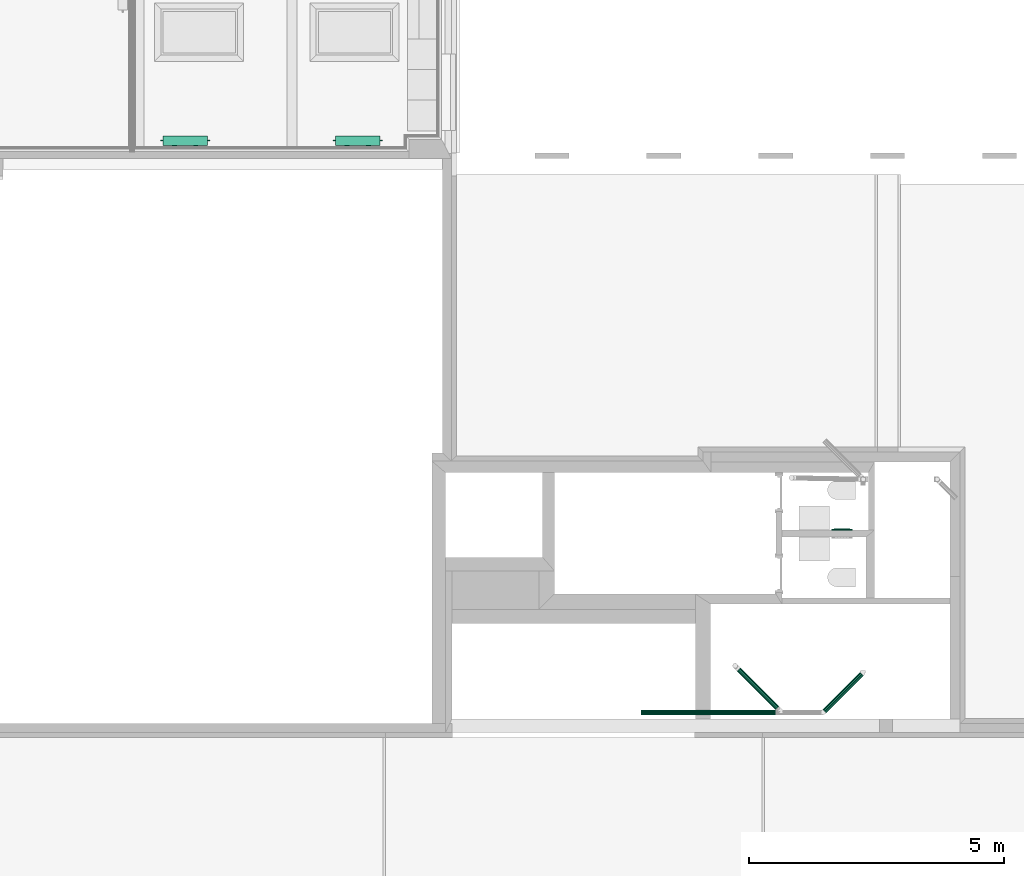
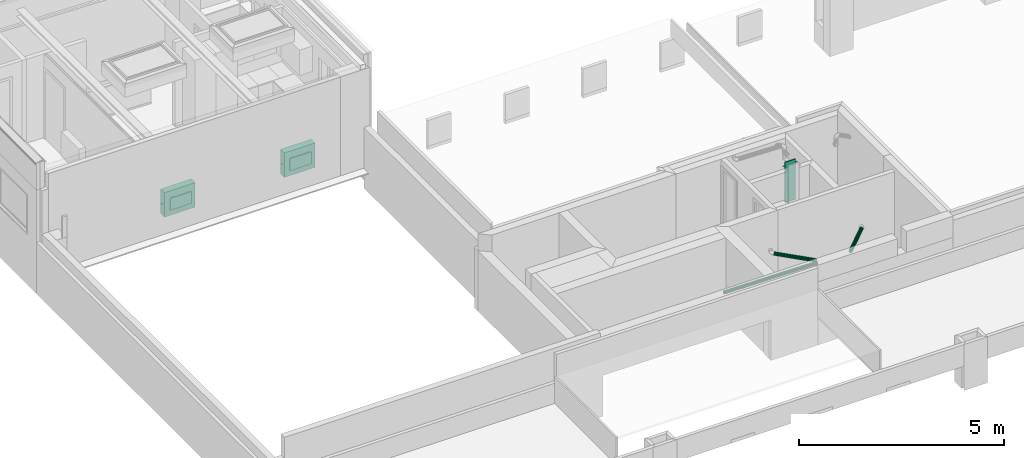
# One storey, part 13 of 23: 3 flow segments, 3 flow terminals.
"""IFC2X3 building model written with IfcOpenShell, lengths in metres."""

from ifc_helpers import new_model, entity, si_unit, converted_unit, derived_unit, money_unit, direction, frame, origin_with_axes, place, context, subcontext, project, spatial, open_shell, faceted_brep, surface_model, material, type_object, element, save


model = new_model("IFC2X3")

# Units and contexts
model_context = context("Model", 3, precision=1e-05, world=origin_with_axes(), true_north=direction((0.0, 1.0)))
body_context = subcontext(model_context, "Body", "Model", "MODEL_VIEW", scale=1.0)
ifc_project = project(units=[si_unit("LENGTHUNIT", "METRE"), si_unit("AREAUNIT", "SQUARE_METRE"), si_unit("VOLUMEUNIT", "CUBIC_METRE"), si_unit("ABSORBEDDOSEUNIT", "GRAY"), si_unit("AMOUNTOFSUBSTANCEUNIT", "MOLE"), si_unit("DOSEEQUIVALENTUNIT", "SIEVERT"), si_unit("ELECTRICCAPACITANCEUNIT", "FARAD"), si_unit("ELECTRICCHARGEUNIT", "COULOMB"), si_unit("ELECTRICCONDUCTANCEUNIT", "SIEMENS"), si_unit("ELECTRICCURRENTUNIT", "AMPERE"), si_unit("ELECTRICRESISTANCEUNIT", "OHM"), si_unit("ELECTRICVOLTAGEUNIT", "VOLT"), si_unit("ENERGYUNIT", "JOULE"), si_unit("FORCEUNIT", "NEWTON"), si_unit("FREQUENCYUNIT", "HERTZ"), si_unit("ILLUMINANCEUNIT", "LUX"), si_unit("INDUCTANCEUNIT", "HENRY"), si_unit("LUMINOUSFLUXUNIT", "LUMEN"), si_unit("LUMINOUSINTENSITYUNIT", "CANDELA"), si_unit("MAGNETICFLUXDENSITYUNIT", "TESLA"), si_unit("MAGNETICFLUXUNIT", "WEBER"), si_unit("MASSUNIT", "GRAM"), converted_unit("PLANEANGLEUNIT", "degree", entity("IfcReal", 0.0174532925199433), si_unit("PLANEANGLEUNIT", "RADIAN"), dimensions=[0, 0, 0, 0, 0, 0, 0]), si_unit("POWERUNIT", "WATT"), si_unit("PRESSUREUNIT", "PASCAL"), si_unit("RADIOACTIVITYUNIT", "BECQUEREL"), si_unit("SOLIDANGLEUNIT", "STERADIAN"), si_unit("THERMODYNAMICTEMPERATUREUNIT", "KELVIN"), si_unit("TIMEUNIT", "SECOND"), derived_unit("ACCELERATIONUNIT", [(si_unit("LENGTHUNIT", "METRE"), 1), (si_unit("TIMEUNIT", "SECOND"), -2)]), derived_unit("ANGULARVELOCITYUNIT", [(converted_unit("PLANEANGLEUNIT", "degree", entity("IfcReal", 0.0174532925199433), si_unit("PLANEANGLEUNIT", "RADIAN"), dimensions=[0, 0, 0, 0, 0, 0, 0]), 1), (si_unit("TIMEUNIT", "SECOND"), -1)]), derived_unit("CURVATUREUNIT", [(converted_unit("PLANEANGLEUNIT", "degree", entity("IfcReal", 0.0174532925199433), si_unit("PLANEANGLEUNIT", "RADIAN"), dimensions=[0, 0, 0, 0, 0, 0, 0]), 1), (si_unit("LENGTHUNIT", "METRE"), -1)]), derived_unit("DYNAMICVISCOSITYUNIT", [(si_unit("PRESSUREUNIT", "PASCAL"), 1), (si_unit("TIMEUNIT", "SECOND"), 1)]), derived_unit("HEATFLUXDENSITYUNIT", [(si_unit("POWERUNIT", "WATT"), 1), (si_unit("LENGTHUNIT", "METRE"), -2)]), derived_unit("HEATINGVALUEUNIT", [(si_unit("ENERGYUNIT", "JOULE"), 1), (si_unit("MASSUNIT", "GRAM"), -1)]), derived_unit("INTEGERCOUNTRATEUNIT", [(si_unit("TIMEUNIT", "SECOND"), -1)]), derived_unit("IONCONCENTRATIONUNIT", [(si_unit("MASSUNIT", "GRAM"), 1), (si_unit("VOLUMEUNIT", "CUBIC_METRE"), -1)]), derived_unit("ISOTHERMALMOISTURECAPACITYUNIT", [(si_unit("VOLUMEUNIT", "CUBIC_METRE"), 1), (si_unit("MASSUNIT", "GRAM"), -1)]), derived_unit("KINEMATICVISCOSITYUNIT", [(si_unit("AREAUNIT", "SQUARE_METRE"), 1), (si_unit("TIMEUNIT", "SECOND"), -1)]), derived_unit("LINEARFORCEUNIT", [(si_unit("FORCEUNIT", "NEWTON"), 1), (si_unit("LENGTHUNIT", "METRE"), -1)]), derived_unit("LINEARMOMENTUNIT", [(si_unit("FORCEUNIT", "NEWTON"), 1), (si_unit("LENGTHUNIT", "METRE"), -1)]), derived_unit("LINEARSTIFFNESSUNIT", [(si_unit("FORCEUNIT", "NEWTON"), 1), (si_unit("LENGTHUNIT", "METRE"), -1)]), derived_unit("LINEARVELOCITYUNIT", [(si_unit("LENGTHUNIT", "METRE"), 1), (si_unit("TIMEUNIT", "SECOND"), -1)]), derived_unit("LUMINOUSINTENSITYDISTRIBUTIONUNIT", [(si_unit("LUMINOUSINTENSITYUNIT", "CANDELA"), 1), (si_unit("LUMINOUSFLUXUNIT", "LUMEN"), -1)]), derived_unit("MASSDENSITYUNIT", [(si_unit("MASSUNIT", "GRAM"), 1), (si_unit("VOLUMEUNIT", "CUBIC_METRE"), -1)]), derived_unit("MASSFLOWRATEUNIT", [(si_unit("MASSUNIT", "GRAM"), 1), (si_unit("TIMEUNIT", "SECOND"), -1)]), derived_unit("MASSPERLENGTHUNIT", [(si_unit("MASSUNIT", "GRAM"), 1), (si_unit("LENGTHUNIT", "METRE"), -1)]), derived_unit("MODULUSOFELASTICITYUNIT", [(si_unit("FORCEUNIT", "NEWTON"), 1), (si_unit("AREAUNIT", "SQUARE_METRE"), -1)]), derived_unit("MODULUSOFLINEARSUBGRADEREACTIONUNIT", [(si_unit("FORCEUNIT", "NEWTON"), 1), (si_unit("LENGTHUNIT", "METRE"), -2)]), derived_unit("MODULUSOFROTATIONALSUBGRADEREACTIONUNIT", [(si_unit("FORCEUNIT", "NEWTON"), 1), (si_unit("LENGTHUNIT", "METRE"), 1)]), derived_unit("MODULUSOFSUBGRADEREACTIONUNIT", [(si_unit("FORCEUNIT", "NEWTON"), 1), (si_unit("VOLUMEUNIT", "CUBIC_METRE"), -1)]), derived_unit("MOISTUREDIFFUSIVITYUNIT", [(si_unit("VOLUMEUNIT", "CUBIC_METRE"), 1), (si_unit("TIMEUNIT", "SECOND"), -1)]), derived_unit("MOLECULARWEIGHTUNIT", [(si_unit("MASSUNIT", "GRAM"), 1), (si_unit("AMOUNTOFSUBSTANCEUNIT", "MOLE"), -1)]), derived_unit("PLANARFORCEUNIT", [(si_unit("FORCEUNIT", "NEWTON"), 1), (si_unit("LENGTHUNIT", "METRE"), -2)]), derived_unit("ROTATIONALFREQUENCYUNIT", [(si_unit("TIMEUNIT", "SECOND"), -1)]), derived_unit("ROTATIONALMASSUNIT", [(si_unit("MASSUNIT", "GRAM"), 1), (si_unit("LENGTHUNIT", "METRE"), 2)]), derived_unit("ROTATIONALSTIFFNESSUNIT", [(si_unit("FORCEUNIT", "NEWTON"), 1), (si_unit("LENGTHUNIT", "METRE"), 1), (converted_unit("PLANEANGLEUNIT", "degree", entity("IfcReal", 0.0174532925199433), si_unit("PLANEANGLEUNIT", "RADIAN"), dimensions=[0, 0, 0, 0, 0, 0, 0]), -1)]), derived_unit("SECTIONAREAINTEGRALUNIT", [(si_unit("LENGTHUNIT", "METRE"), 5)]), derived_unit("SECTIONMODULUSUNIT", [(si_unit("LENGTHUNIT", "METRE"), 3)]), derived_unit("SHEARMODULUSUNIT", [(si_unit("FORCEUNIT", "NEWTON"), 1), (si_unit("AREAUNIT", "SQUARE_METRE"), -1)]), derived_unit("SOUNDPOWERUNIT", [(si_unit("ENERGYUNIT", "JOULE"), 1), (si_unit("TIMEUNIT", "SECOND"), -1)]), derived_unit("SPECIFICHEATCAPACITYUNIT", [(si_unit("FORCEUNIT", "NEWTON"), 1), (si_unit("MASSUNIT", "GRAM"), -1), (si_unit("THERMODYNAMICTEMPERATUREUNIT", "KELVIN"), -1)]), derived_unit("TEMPERATUREGRADIENTUNIT", [(si_unit("THERMODYNAMICTEMPERATUREUNIT", "KELVIN"), 1), (si_unit("LENGTHUNIT", "METRE"), -1)]), derived_unit("THERMALADMITTANCEUNIT", [(si_unit("POWERUNIT", "WATT"), 1), (si_unit("AREAUNIT", "SQUARE_METRE"), -1), (si_unit("THERMODYNAMICTEMPERATUREUNIT", "KELVIN"), -1)]), derived_unit("THERMALCONDUCTANCEUNIT", [(si_unit("POWERUNIT", "WATT"), 1), (si_unit("LENGTHUNIT", "METRE"), -1), (si_unit("THERMODYNAMICTEMPERATUREUNIT", "KELVIN"), -1)]), derived_unit("THERMALEXPANSIONCOEFFICIENTUNIT", [(si_unit("THERMODYNAMICTEMPERATUREUNIT", "KELVIN"), -1)]), derived_unit("THERMALRESISTANCEUNIT", [(si_unit("AREAUNIT", "SQUARE_METRE"), 1), (si_unit("POWERUNIT", "WATT"), -1)]), derived_unit("THERMALTRANSMITTANCEUNIT", [(si_unit("POWERUNIT", "WATT"), 1), (si_unit("AREAUNIT", "SQUARE_METRE"), -1), (si_unit("THERMODYNAMICTEMPERATUREUNIT", "KELVIN"), -1)]), derived_unit("TORQUEUNIT", [(si_unit("FORCEUNIT", "NEWTON"), 1), (si_unit("LENGTHUNIT", "METRE"), 1)]), derived_unit("VAPORPERMEABILITYUNIT", [(si_unit("MASSUNIT", "GRAM"), 1), (si_unit("TIMEUNIT", "SECOND"), -1)]), derived_unit("VOLUMETRICFLOWRATEUNIT", [(si_unit("VOLUMEUNIT", "CUBIC_METRE"), 1), (si_unit("TIMEUNIT", "SECOND"), -1)]), derived_unit("WARPINGCONSTANTUNIT", [(si_unit("LENGTHUNIT", "METRE"), 6)]), derived_unit("WARPINGMOMENTUNIT", [(si_unit("FORCEUNIT", "NEWTON"), 1), (si_unit("LENGTHUNIT", "METRE"), 2)]), money_unit("GBP")], contexts=[model_context])

# Site, building, storey, space
site_placement = place(None, origin_with_axes())
site = spatial("IfcSite", under=ifc_project, at=site_placement, Name="Site", CompositionType="ELEMENT")
building_placement = place(site_placement, origin_with_axes())
building = spatial("IfcBuilding", under=site, at=building_placement, Name="Building01", CompositionType="ELEMENT")
storey_placement = place(building_placement, frame((0.0, 0.0, 2.6), z_axis=(0.0, 0.0, 1.0), x_axis=(1.0, 0.0, 0.0)))
storey = spatial("IfcBuildingStorey", under=building, at=storey_placement, Name="MF", CompositionType="ELEMENT", Elevation=2.6)
space_1_placement = place(storey_placement, frame((14.421434, 6.076984, 0.0), z_axis=(0.0, 0.0, 1.0), x_axis=(0.0, -1.0, 0.0)))
space_1 = spatial("IfcSpace", under=storey, at=space_1_placement, Name="storage", CompositionType="ELEMENT", InteriorOrExteriorSpace="NOTDEFINED")

# Flow segments
ifc_material_1 = material(Name="M_BSUK_ColdWater")
pipe_segment_type = type_object("IfcPipeSegmentType", Name="M-BmpStraightpipe-DefaultPipe", PredefinedType="RIGIDSEGMENT")
placement = place(building_placement, origin_with_axes())
flow_segment_1_placement = place(placement, frame((13.058928, 3.948962, 4.699324), z_axis=(0.01249902, 0.0, 0.99992188), x_axis=(0.99992188, 0.0, -0.01249902)))
element("IfcFlowSegment", 1, at=flow_segment_1_placement, inside=space_1, type_object=pipe_segment_type, material=ifc_material_1, Name="M-BmpStraightpipe-DefaultPipe", ObjectType="M-BmpStraightpipe-DefaultPipe", context=body_context, shape_type="Brep", body=[
    faceted_brep([(2.632821, 0.0, -0.05), (0.0, 0.0, -0.05), (0.0, 0.019134, -0.046194), (2.632821, 0.019134, -0.046194), (0.0, 0.035355, -0.035355), (2.632821, 0.035355, -0.035355), (0.0, 0.046194, -0.019134), (2.632821, 0.046194, -0.019134), (0.0, 0.05, 0.0), (2.632821, 0.05, 0.0), (0.0, 0.046194, 0.019134), (2.632821, 0.046194, 0.019134), (0.0, 0.035355, 0.035355), (2.632821, 0.035355, 0.035355), (0.0, 0.019134, 0.046194), (2.632821, 0.019134, 0.046194), (0.0, 0.0, 0.05), (2.632821, 0.0, 0.05), (0.0, -0.019134, 0.046194), (2.632821, -0.019134, 0.046194), (0.0, -0.035355, 0.035355), (2.632821, -0.035355, 0.035355), (0.0, -0.046194, 0.019134), (2.632821, -0.046194, 0.019134), (0.0, -0.05, 0.0), (2.632821, -0.05, 0.0), (0.0, -0.046194, -0.019134), (2.632821, -0.046194, -0.019134), (0.0, -0.035355, -0.035355), (2.632821, -0.035355, -0.035355), (0.0, -0.019134, -0.046194), (2.632821, -0.019134, -0.046194)], [[[0, 1, 2, 3]], [[3, 2, 4, 5]], [[5, 4, 6, 7]], [[7, 6, 8, 9]], [[9, 8, 10, 11]], [[11, 10, 12, 13]], [[13, 12, 14, 15]], [[15, 14, 16, 17]], [[17, 16, 18, 19]], [[19, 18, 20, 21]], [[21, 20, 22, 23]], [[23, 22, 24, 25]], [[25, 24, 26, 27]], [[27, 26, 28, 29]], [[29, 28, 30, 31]], [[31, 30, 1, 0]]]),
])
flow_segment_2_placement = place(placement, frame((16.650088, 3.978246, 4.654283), z_axis=(0.00883814, 0.00883814, 0.99992188), x_axis=(0.70705155, 0.70705154, -0.01249902)))
element("IfcFlowSegment", 2, at=flow_segment_2_placement, inside=space_1, type_object=pipe_segment_type, material=ifc_material_1, Name="M-BmpStraightpipe-DefaultPipe", ObjectType="M-BmpStraightpipe-DefaultPipe", context=body_context, shape_type="Brep", body=[
    faceted_brep([(1.02766, 0.0, -0.05), (0.0, 0.0, -0.05), (0.0, 0.019134, -0.046194), (1.02766, 0.019134, -0.046194), (0.0, 0.035355, -0.035355), (1.02766, 0.035355, -0.035355), (0.0, 0.046194, -0.019134), (1.02766, 0.046194, -0.019134), (0.0, 0.05, 0.0), (1.02766, 0.05, 0.0), (0.0, 0.046194, 0.019134), (1.02766, 0.046194, 0.019134), (0.0, 0.035355, 0.035355), (1.02766, 0.035355, 0.035355), (0.0, 0.019134, 0.046194), (1.02766, 0.019134, 0.046194), (0.0, 0.0, 0.05), (1.02766, 0.0, 0.05), (0.0, -0.019134, 0.046194), (1.02766, -0.019134, 0.046194), (0.0, -0.035355, 0.035355), (1.02766, -0.035355, 0.035355), (0.0, -0.046194, 0.019134), (1.02766, -0.046194, 0.019134), (0.0, -0.05, 0.0), (1.02766, -0.05, 0.0), (0.0, -0.046194, -0.019134), (1.02766, -0.046194, -0.019134), (0.0, -0.035355, -0.035355), (1.02766, -0.035355, -0.035355), (0.0, -0.019134, -0.046194), (1.02766, -0.019134, -0.046194)], [[[0, 1, 2, 3]], [[3, 2, 4, 5]], [[5, 4, 6, 7]], [[7, 6, 8, 9]], [[9, 8, 10, 11]], [[11, 10, 12, 13]], [[13, 12, 14, 15]], [[15, 14, 16, 17]], [[17, 16, 18, 19]], [[19, 18, 20, 21]], [[21, 20, 22, 23]], [[23, 22, 24, 25]], [[25, 24, 26, 27]], [[27, 26, 28, 29]], [[29, 28, 30, 31]], [[31, 30, 1, 0]]]),
])
flow_segment_3_placement = place(placement, frame((14.969827, 4.796648, 4.678882), z_axis=(0.00883814, -0.00883814, 0.99992188), x_axis=(0.70705155, -0.70705154, -0.01249902)))
element("IfcFlowSegment", 3, at=flow_segment_3_placement, inside=space_1, type_object=pipe_segment_type, material=ifc_material_1, Name="M-BmpStraightpipe-DefaultPipe", ObjectType="M-BmpStraightpipe-DefaultPipe", context=body_context, shape_type="Brep", body=[
    faceted_brep([(1.072986, 0.0, -0.05), (0.0, 0.0, -0.05), (0.0, 0.019134, -0.046194), (1.072986, 0.019134, -0.046194), (0.0, 0.035355, -0.035355), (1.072986, 0.035355, -0.035355), (0.0, 0.046194, -0.019134), (1.072986, 0.046194, -0.019134), (0.0, 0.05, 0.0), (1.072986, 0.05, 0.0), (0.0, 0.046194, 0.019134), (1.072986, 0.046194, 0.019134), (0.0, 0.035355, 0.035355), (1.072986, 0.035355, 0.035355), (0.0, 0.019134, 0.046194), (1.072986, 0.019134, 0.046194), (0.0, 0.0, 0.05), (1.072986, 0.0, 0.05), (0.0, -0.019134, 0.046194), (1.072986, -0.019134, 0.046194), (0.0, -0.035355, 0.035355), (1.072986, -0.035355, 0.035355), (0.0, -0.046194, 0.019134), (1.072986, -0.046194, 0.019134), (0.0, -0.05, 0.0), (1.072986, -0.05, 0.0), (0.0, -0.046194, -0.019134), (1.072986, -0.046194, -0.019134), (0.0, -0.035355, -0.035355), (1.072986, -0.035355, -0.035355), (0.0, -0.019134, -0.046194), (1.072986, -0.019134, -0.046194)], [[[0, 1, 2, 3]], [[3, 2, 4, 5]], [[5, 4, 6, 7]], [[7, 6, 8, 9]], [[9, 8, 10, 11]], [[11, 10, 12, 13]], [[13, 12, 14, 15]], [[15, 14, 16, 17]], [[17, 16, 18, 19]], [[19, 18, 20, 21]], [[21, 20, 22, 23]], [[23, 22, 24, 25]], [[25, 24, 26, 27]], [[27, 26, 28, 29]], [[29, 28, 30, 31]], [[31, 30, 1, 0]]]),
])

# Space
space_2_placement = place(storey_placement, frame((3.137414, 15.705689, 0.606989), z_axis=(0.0, 0.0, 1.0), x_axis=(0.0, -1.0, 0.0)))
space_2 = spatial("IfcSpace", under=storey, at=space_2_placement, Name="k/d/l", CompositionType="ELEMENT", InteriorOrExteriorSpace="NOTDEFINED")

# Flow terminals
ifc_material_2 = material(Name="M_BSUK_Ventilation")
space_heater_type_1 = type_object("IfcSpaceHeaterType", Name="M-BmvRadiatorpanel-Panel", PredefinedType="NOTDEFINED")
flow_terminal_1_placement = place(storey_placement, frame((3.702414, 15.14725, 1.25), z_axis=(0.0, 0.0, 1.0), x_axis=(-1.0, 0.0, 0.0)))
element("IfcFlowTerminal", 4, at=flow_terminal_1_placement, inside=space_2, type_object=space_heater_type_1, material=ifc_material_2, Name="M-BmvRadiatorpanel-Panel", ObjectType="M-BmvRadiatorpanel-Panel", context=body_context, shape_type="SurfaceModel", body=[
    surface_model("IfcShellBasedSurfaceModel", [(-0.865, -0.0925, 0.365), (-0.865, 0.0925, 0.365), (0.0, 0.0925, 0.365), (0.0, -0.0925, 0.365), (-0.865, -0.0925, -0.365), (-0.865, 0.0925, -0.365), (0.0, -0.0925, -0.365), (0.0, 0.0925, -0.365), (-0.1325, 0.12025, 0.175), (-0.7325, 0.12025, 0.175), (-0.7325, 0.14525, 0.175), (-0.1325, 0.14525, 0.175), (-0.7325, 0.14525, -0.175), (-0.1325, 0.14525, -0.175), (-0.7325, 0.12025, -0.175), (-0.1325, 0.12025, -0.175), (-0.2225, 0.0925, 0.0775), (-0.2225, 0.12025, 0.0775), (-0.205279, 0.12025, 0.080925), (-0.205279, 0.0925, 0.080925), (-0.19068, 0.12025, 0.09068), (-0.19068, 0.0925, 0.09068), (-0.180925, 0.12025, 0.105279), (-0.180925, 0.0925, 0.105279), (-0.1775, 0.12025, 0.1225), (-0.1775, 0.0925, 0.1225), (-0.180925, 0.12025, 0.139721), (-0.180925, 0.0925, 0.139721), (-0.19068, 0.12025, 0.15432), (-0.19068, 0.0925, 0.15432), (-0.205279, 0.12025, 0.164075), (-0.205279, 0.0925, 0.164075), (-0.2225, 0.12025, 0.1675), (-0.2225, 0.0925, 0.1675), (-0.239721, 0.12025, 0.164075), (-0.239721, 0.0925, 0.164075), (-0.25432, 0.12025, 0.15432), (-0.25432, 0.0925, 0.15432), (-0.264075, 0.12025, 0.139721), (-0.264075, 0.0925, 0.139721), (-0.2675, 0.12025, 0.1225), (-0.2675, 0.0925, 0.1225), (-0.264075, 0.12025, 0.105279), (-0.264075, 0.0925, 0.105279), (-0.25432, 0.12025, 0.09068), (-0.25432, 0.0925, 0.09068), (-0.239721, 0.12025, 0.080925), (-0.239721, 0.0925, 0.080925), (-0.6425, 0.0925, 0.0775), (-0.6425, 0.12025, 0.0775), (-0.625279, 0.12025, 0.080925), (-0.625279, 0.0925, 0.080925), (-0.61068, 0.12025, 0.09068), (-0.61068, 0.0925, 0.09068), (-0.600925, 0.12025, 0.105279), (-0.600925, 0.0925, 0.105279), (-0.5975, 0.12025, 0.1225), (-0.5975, 0.0925, 0.1225), (-0.600925, 0.12025, 0.139721), (-0.600925, 0.0925, 0.139721), (-0.61068, 0.12025, 0.15432), (-0.61068, 0.0925, 0.15432), (-0.625279, 0.12025, 0.164075), (-0.625279, 0.0925, 0.164075), (-0.6425, 0.12025, 0.1675), (-0.6425, 0.0925, 0.1675), (-0.659721, 0.12025, 0.164075), (-0.659721, 0.0925, 0.164075), (-0.67432, 0.12025, 0.15432), (-0.67432, 0.0925, 0.15432), (-0.684075, 0.12025, 0.139721), (-0.684075, 0.0925, 0.139721), (-0.6875, 0.12025, 0.1225), (-0.6875, 0.0925, 0.1225), (-0.684075, 0.12025, 0.105279), (-0.684075, 0.0925, 0.105279), (-0.67432, 0.12025, 0.09068), (-0.67432, 0.0925, 0.09068), (-0.659721, 0.12025, 0.080925), (-0.659721, 0.0925, 0.080925), (0.05, 0.0, -0.0225), (0.0, 0.0, -0.0225), (0.0, 0.004784, -0.021548), (0.05, 0.004784, -0.021548), (0.0, 0.008839, -0.018839), (0.05, 0.008839, -0.018839), (0.0, 0.011548, -0.014784), (0.05, 0.011548, -0.014784), (0.0, 0.0125, -0.01), (0.05, 0.0125, -0.01), (0.0, 0.011548, -0.005216), (0.05, 0.011548, -0.005216), (0.0, 0.008839, -0.001161), (0.05, 0.008839, -0.001161), (0.0, 0.004784, 0.001548), (0.05, 0.004784, 0.001548), (0.0, 0.0, 0.0025), (0.05, 0.0, 0.0025), (0.0, -0.004784, 0.001548), (0.05, -0.004784, 0.001548), (0.0, -0.008839, -0.001161), (0.05, -0.008839, -0.001161), (0.0, -0.011548, -0.005216), (0.05, -0.011548, -0.005216), (0.0, -0.0125, -0.01), (0.05, -0.0125, -0.01), (0.0, -0.011548, -0.014784), (0.05, -0.011548, -0.014784), (0.0, -0.008839, -0.018839), (0.05, -0.008839, -0.018839), (0.0, -0.004784, -0.021548), (0.05, -0.004784, -0.021548), (-0.915, 0.0, 0.2525), (-0.865, 0.0, 0.2525), (-0.865, -0.004784, 0.253452), (-0.915, -0.004784, 0.253452), (-0.865, -0.008839, 0.256161), (-0.915, -0.008839, 0.256161), (-0.865, -0.011548, 0.260216), (-0.915, -0.011548, 0.260216), (-0.865, -0.0125, 0.265), (-0.915, -0.0125, 0.265), (-0.865, -0.011548, 0.269784), (-0.915, -0.011548, 0.269784), (-0.865, -0.008839, 0.273839), (-0.915, -0.008839, 0.273839), (-0.865, -0.004784, 0.276548), (-0.915, -0.004784, 0.276548), (-0.865, 0.0, 0.2775), (-0.915, 0.0, 0.2775), (-0.865, 0.004784, 0.276548), (-0.915, 0.004784, 0.276548), (-0.865, 0.008839, 0.273839), (-0.915, 0.008839, 0.273839), (-0.865, 0.011548, 0.269784), (-0.915, 0.011548, 0.269784), (-0.865, 0.0125, 0.265), (-0.915, 0.0125, 0.265), (-0.865, 0.011548, 0.260216), (-0.915, 0.011548, 0.260216), (-0.865, 0.008839, 0.256161), (-0.915, 0.008839, 0.256161), (-0.865, 0.004784, 0.253452), (-0.915, 0.004784, 0.253452)], [open_shell([[[0, 1, 2, 3]], [[4, 5, 1, 0]], [[6, 7, 5, 4]], [[3, 2, 7, 6]], [[1, 5, 7, 2]], [[3, 6, 4, 0]], [[8, 9, 10, 11]], [[11, 10, 12, 13]], [[13, 12, 14, 15]], [[15, 14, 9, 8]], [[9, 14, 12, 10]], [[11, 13, 15, 8]], [[16, 17, 18, 19]], [[19, 18, 20, 21]], [[21, 20, 22, 23]], [[23, 22, 24, 25]], [[25, 24, 26, 27]], [[27, 26, 28, 29]], [[29, 28, 30, 31]], [[31, 30, 32, 33]], [[33, 32, 34, 35]], [[35, 34, 36, 37]], [[37, 36, 38, 39]], [[39, 38, 40, 41]], [[41, 40, 42, 43]], [[43, 42, 44, 45]], [[45, 44, 46, 47]], [[47, 46, 17, 16]], [[48, 49, 50, 51]], [[51, 50, 52, 53]], [[53, 52, 54, 55]], [[55, 54, 56, 57]], [[57, 56, 58, 59]], [[59, 58, 60, 61]], [[61, 60, 62, 63]], [[63, 62, 64, 65]], [[65, 64, 66, 67]], [[67, 66, 68, 69]], [[69, 68, 70, 71]], [[71, 70, 72, 73]], [[73, 72, 74, 75]], [[75, 74, 76, 77]], [[77, 76, 78, 79]], [[79, 78, 49, 48]], [[80, 81, 82, 83]], [[83, 82, 84, 85]], [[85, 84, 86, 87]], [[87, 86, 88, 89]], [[89, 88, 90, 91]], [[91, 90, 92, 93]], [[93, 92, 94, 95]], [[95, 94, 96, 97]], [[97, 96, 98, 99]], [[99, 98, 100, 101]], [[101, 100, 102, 103]], [[103, 102, 104, 105]], [[105, 104, 106, 107]], [[107, 106, 108, 109]], [[109, 108, 110, 111]], [[111, 110, 81, 80]], [[112, 113, 114, 115]], [[115, 114, 116, 117]], [[117, 116, 118, 119]], [[119, 118, 120, 121]], [[121, 120, 122, 123]], [[123, 122, 124, 125]], [[125, 124, 126, 127]], [[127, 126, 128, 129]], [[129, 128, 130, 131]], [[131, 130, 132, 133]], [[133, 132, 134, 135]], [[135, 134, 136, 137]], [[137, 136, 138, 139]], [[139, 138, 140, 141]], [[141, 140, 142, 143]], [[143, 142, 113, 112]]])]),
])
flow_terminal_2_placement = place(storey_placement, frame((7.079893, 15.14725, 1.25), z_axis=(0.0, 0.0, 1.0), x_axis=(-1.0, 0.0, 0.0)))
element("IfcFlowTerminal", 5, at=flow_terminal_2_placement, inside=space_2, type_object=space_heater_type_1, material=ifc_material_2, Name="M-BmvRadiatorpanel-Panel", ObjectType="M-BmvRadiatorpanel-Panel", context=body_context, shape_type="SurfaceModel", body=[
    surface_model("IfcShellBasedSurfaceModel", [(-0.865, -0.0925, 0.365), (-0.865, 0.0925, 0.365), (0.0, 0.0925, 0.365), (0.0, -0.0925, 0.365), (-0.865, -0.0925, -0.365), (-0.865, 0.0925, -0.365), (0.0, -0.0925, -0.365), (0.0, 0.0925, -0.365), (-0.1325, 0.12025, 0.175), (-0.7325, 0.12025, 0.175), (-0.7325, 0.14525, 0.175), (-0.1325, 0.14525, 0.175), (-0.7325, 0.14525, -0.175), (-0.1325, 0.14525, -0.175), (-0.7325, 0.12025, -0.175), (-0.1325, 0.12025, -0.175), (-0.2225, 0.0925, 0.0775), (-0.2225, 0.12025, 0.0775), (-0.205279, 0.12025, 0.080925), (-0.205279, 0.0925, 0.080925), (-0.19068, 0.12025, 0.09068), (-0.19068, 0.0925, 0.09068), (-0.180925, 0.12025, 0.105279), (-0.180925, 0.0925, 0.105279), (-0.1775, 0.12025, 0.1225), (-0.1775, 0.0925, 0.1225), (-0.180925, 0.12025, 0.139721), (-0.180925, 0.0925, 0.139721), (-0.19068, 0.12025, 0.15432), (-0.19068, 0.0925, 0.15432), (-0.205279, 0.12025, 0.164075), (-0.205279, 0.0925, 0.164075), (-0.2225, 0.12025, 0.1675), (-0.2225, 0.0925, 0.1675), (-0.239721, 0.12025, 0.164075), (-0.239721, 0.0925, 0.164075), (-0.25432, 0.12025, 0.15432), (-0.25432, 0.0925, 0.15432), (-0.264075, 0.12025, 0.139721), (-0.264075, 0.0925, 0.139721), (-0.2675, 0.12025, 0.1225), (-0.2675, 0.0925, 0.1225), (-0.264075, 0.12025, 0.105279), (-0.264075, 0.0925, 0.105279), (-0.25432, 0.12025, 0.09068), (-0.25432, 0.0925, 0.09068), (-0.239721, 0.12025, 0.080925), (-0.239721, 0.0925, 0.080925), (-0.6425, 0.0925, 0.0775), (-0.6425, 0.12025, 0.0775), (-0.625279, 0.12025, 0.080925), (-0.625279, 0.0925, 0.080925), (-0.61068, 0.12025, 0.09068), (-0.61068, 0.0925, 0.09068), (-0.600925, 0.12025, 0.105279), (-0.600925, 0.0925, 0.105279), (-0.5975, 0.12025, 0.1225), (-0.5975, 0.0925, 0.1225), (-0.600925, 0.12025, 0.139721), (-0.600925, 0.0925, 0.139721), (-0.61068, 0.12025, 0.15432), (-0.61068, 0.0925, 0.15432), (-0.625279, 0.12025, 0.164075), (-0.625279, 0.0925, 0.164075), (-0.6425, 0.12025, 0.1675), (-0.6425, 0.0925, 0.1675), (-0.659721, 0.12025, 0.164075), (-0.659721, 0.0925, 0.164075), (-0.67432, 0.12025, 0.15432), (-0.67432, 0.0925, 0.15432), (-0.684075, 0.12025, 0.139721), (-0.684075, 0.0925, 0.139721), (-0.6875, 0.12025, 0.1225), (-0.6875, 0.0925, 0.1225), (-0.684075, 0.12025, 0.105279), (-0.684075, 0.0925, 0.105279), (-0.67432, 0.12025, 0.09068), (-0.67432, 0.0925, 0.09068), (-0.659721, 0.12025, 0.080925), (-0.659721, 0.0925, 0.080925), (0.05, 0.0, -0.0225), (0.0, 0.0, -0.0225), (0.0, 0.004784, -0.021548), (0.05, 0.004784, -0.021548), (0.0, 0.008839, -0.018839), (0.05, 0.008839, -0.018839), (0.0, 0.011548, -0.014784), (0.05, 0.011548, -0.014784), (0.0, 0.0125, -0.01), (0.05, 0.0125, -0.01), (0.0, 0.011548, -0.005216), (0.05, 0.011548, -0.005216), (0.0, 0.008839, -0.001161), (0.05, 0.008839, -0.001161), (0.0, 0.004784, 0.001548), (0.05, 0.004784, 0.001548), (0.0, 0.0, 0.0025), (0.05, 0.0, 0.0025), (0.0, -0.004784, 0.001548), (0.05, -0.004784, 0.001548), (0.0, -0.008839, -0.001161), (0.05, -0.008839, -0.001161), (0.0, -0.011548, -0.005216), (0.05, -0.011548, -0.005216), (0.0, -0.0125, -0.01), (0.05, -0.0125, -0.01), (0.0, -0.011548, -0.014784), (0.05, -0.011548, -0.014784), (0.0, -0.008839, -0.018839), (0.05, -0.008839, -0.018839), (0.0, -0.004784, -0.021548), (0.05, -0.004784, -0.021548), (-0.915, 0.0, 0.2525), (-0.865, 0.0, 0.2525), (-0.865, -0.004784, 0.253452), (-0.915, -0.004784, 0.253452), (-0.865, -0.008839, 0.256161), (-0.915, -0.008839, 0.256161), (-0.865, -0.011548, 0.260216), (-0.915, -0.011548, 0.260216), (-0.865, -0.0125, 0.265), (-0.915, -0.0125, 0.265), (-0.865, -0.011548, 0.269784), (-0.915, -0.011548, 0.269784), (-0.865, -0.008839, 0.273839), (-0.915, -0.008839, 0.273839), (-0.865, -0.004784, 0.276548), (-0.915, -0.004784, 0.276548), (-0.865, 0.0, 0.2775), (-0.915, 0.0, 0.2775), (-0.865, 0.004784, 0.276548), (-0.915, 0.004784, 0.276548), (-0.865, 0.008839, 0.273839), (-0.915, 0.008839, 0.273839), (-0.865, 0.011548, 0.269784), (-0.915, 0.011548, 0.269784), (-0.865, 0.0125, 0.265), (-0.915, 0.0125, 0.265), (-0.865, 0.011548, 0.260216), (-0.915, 0.011548, 0.260216), (-0.865, 0.008839, 0.256161), (-0.915, 0.008839, 0.256161), (-0.865, 0.004784, 0.253452), (-0.915, 0.004784, 0.253452)], [open_shell([[[0, 1, 2, 3]], [[4, 5, 1, 0]], [[6, 7, 5, 4]], [[3, 2, 7, 6]], [[1, 5, 7, 2]], [[3, 6, 4, 0]], [[8, 9, 10, 11]], [[11, 10, 12, 13]], [[13, 12, 14, 15]], [[15, 14, 9, 8]], [[9, 14, 12, 10]], [[11, 13, 15, 8]], [[16, 17, 18, 19]], [[19, 18, 20, 21]], [[21, 20, 22, 23]], [[23, 22, 24, 25]], [[25, 24, 26, 27]], [[27, 26, 28, 29]], [[29, 28, 30, 31]], [[31, 30, 32, 33]], [[33, 32, 34, 35]], [[35, 34, 36, 37]], [[37, 36, 38, 39]], [[39, 38, 40, 41]], [[41, 40, 42, 43]], [[43, 42, 44, 45]], [[45, 44, 46, 47]], [[47, 46, 17, 16]], [[48, 49, 50, 51]], [[51, 50, 52, 53]], [[53, 52, 54, 55]], [[55, 54, 56, 57]], [[57, 56, 58, 59]], [[59, 58, 60, 61]], [[61, 60, 62, 63]], [[63, 62, 64, 65]], [[65, 64, 66, 67]], [[67, 66, 68, 69]], [[69, 68, 70, 71]], [[71, 70, 72, 73]], [[73, 72, 74, 75]], [[75, 74, 76, 77]], [[77, 76, 78, 79]], [[79, 78, 49, 48]], [[80, 81, 82, 83]], [[83, 82, 84, 85]], [[85, 84, 86, 87]], [[87, 86, 88, 89]], [[89, 88, 90, 91]], [[91, 90, 92, 93]], [[93, 92, 94, 95]], [[95, 94, 96, 97]], [[97, 96, 98, 99]], [[99, 98, 100, 101]], [[101, 100, 102, 103]], [[103, 102, 104, 105]], [[105, 104, 106, 107]], [[107, 106, 108, 109]], [[109, 108, 110, 111]], [[111, 110, 81, 80]], [[112, 113, 114, 115]], [[115, 114, 116, 117]], [[117, 116, 118, 119]], [[119, 118, 120, 121]], [[121, 120, 122, 123]], [[123, 122, 124, 125]], [[125, 124, 126, 127]], [[127, 126, 128, 129]], [[129, 128, 130, 131]], [[131, 130, 132, 133]], [[133, 132, 134, 135]], [[135, 134, 136, 137]], [[137, 136, 138, 139]], [[139, 138, 140, 141]], [[141, 140, 142, 143]], [[143, 142, 113, 112]]])]),
])

# Space
space_3_placement = place(storey_placement, frame((15.816265, 6.196984, 0.0), z_axis=(0.0, 0.0, 1.0), x_axis=(1.0, 0.0, 0.0)))
space_3 = spatial("IfcSpace", under=storey, at=space_3_placement, Name="WC", CompositionType="ELEMENT", InteriorOrExteriorSpace="NOTDEFINED")

# Flow terminal
space_heater_type_2 = type_object("IfcSpaceHeaterType", Name="M-BmvRadiator-Column", PredefinedType="NOTDEFINED")
flow_terminal_3_placement = place(storey_placement, frame((16.84523, 7.532419, 1.885), z_axis=(0.0, 0.0, 1.0), x_axis=(-1.0, 0.0, 0.0)))
element("IfcFlowTerminal", 6, at=flow_terminal_3_placement, inside=space_3, type_object=space_heater_type_2, material=ifc_material_2, Name="M-BmvRadiator-Column", ObjectType="M-BmvRadiator-Column", context=body_context, shape_type="SurfaceModel", body=[
    surface_model("IfcShellBasedSurfaceModel", [(0.0, -0.0125, 0.6), (0.0, -0.0125, -0.6), (0.0, 0.0125, -0.6), (0.0, 0.0125, 0.6), (-0.3, -0.0125, 0.6), (-0.3, -0.0125, -0.6), (-0.3, 0.0125, -0.6), (-0.3, 0.0125, 0.6), (-0.06, 0.0125, 0.6), (-0.06, -0.0125, 0.6), (-0.06, -0.0125, -0.6), (-0.06, 0.0125, -0.6), (-0.12, 0.0125, 0.6), (-0.12, -0.0125, 0.6), (-0.12, -0.0125, -0.6), (-0.12, 0.0125, -0.6), (-0.18, 0.0125, 0.6), (-0.18, -0.0125, 0.6), (-0.18, -0.0125, -0.6), (-0.18, 0.0125, -0.6), (-0.24, 0.0125, 0.6), (-0.24, -0.0125, 0.6), (-0.24, -0.0125, -0.6), (-0.24, 0.0125, -0.6), (0.05, 0.0, 0.4825), (0.0, 0.0, 0.4825), (0.0, 0.003827, 0.483261), (0.05, 0.003827, 0.483261), (0.0, 0.007071, 0.485429), (0.05, 0.007071, 0.485429), (0.0, 0.009239, 0.488673), (0.05, 0.009239, 0.488673), (0.0, 0.01, 0.4925), (0.05, 0.01, 0.4925), (0.0, 0.009239, 0.496327), (0.05, 0.009239, 0.496327), (0.0, 0.007071, 0.499571), (0.05, 0.007071, 0.499571), (0.0, 0.003827, 0.501739), (0.05, 0.003827, 0.501739), (0.0, 0.0, 0.5025), (0.05, 0.0, 0.5025), (0.0, -0.003827, 0.501739), (0.05, -0.003827, 0.501739), (0.0, -0.007071, 0.499571), (0.05, -0.007071, 0.499571), (0.0, -0.009239, 0.496327), (0.05, -0.009239, 0.496327), (0.0, -0.01, 0.4925), (0.05, -0.01, 0.4925), (0.0, -0.009239, 0.488673), (0.05, -0.009239, 0.488673), (0.0, -0.007071, 0.485429), (0.05, -0.007071, 0.485429), (0.0, -0.003827, 0.483261), (0.05, -0.003827, 0.483261), (-0.35, 0.0, 0.4884), (-0.3, 0.0, 0.4884), (-0.3, -0.003827, 0.489161), (-0.35, -0.003827, 0.489161), (-0.3, -0.007071, 0.491329), (-0.35, -0.007071, 0.491329), (-0.3, -0.009239, 0.494573), (-0.35, -0.009239, 0.494573), (-0.3, -0.01, 0.4984), (-0.35, -0.01, 0.4984), (-0.3, -0.009239, 0.502227), (-0.35, -0.009239, 0.502227), (-0.3, -0.007071, 0.505471), (-0.35, -0.007071, 0.505471), (-0.3, -0.003827, 0.507639), (-0.35, -0.003827, 0.507639), (-0.3, 0.0, 0.5084), (-0.35, 0.0, 0.5084), (-0.3, 0.003827, 0.507639), (-0.35, 0.003827, 0.507639), (-0.3, 0.007071, 0.505471), (-0.35, 0.007071, 0.505471), (-0.3, 0.009239, 0.502227), (-0.35, 0.009239, 0.502227), (-0.3, 0.01, 0.4984), (-0.35, 0.01, 0.4984), (-0.3, 0.009239, 0.494573), (-0.35, 0.009239, 0.494573), (-0.3, 0.007071, 0.491329), (-0.35, 0.007071, 0.491329), (-0.3, 0.003827, 0.489161), (-0.35, 0.003827, 0.489161)], [open_shell([[[0, 1, 2, 3]], [[4, 5, 6, 7]], [[8, 3, 0, 9]], [[9, 0, 1, 10]], [[10, 1, 2, 11]], [[11, 2, 3, 8]], [[12, 8, 9, 13]], [[13, 9, 10, 14]], [[14, 10, 11, 15]], [[15, 11, 8, 12]], [[16, 12, 13, 17]], [[17, 13, 14, 18]], [[18, 14, 15, 19]], [[19, 15, 12, 16]], [[20, 16, 17, 21]], [[21, 17, 18, 22]], [[22, 18, 19, 23]], [[23, 19, 16, 20]], [[7, 20, 21, 4]], [[4, 21, 22, 5]], [[5, 22, 23, 6]], [[6, 23, 20, 7]], [[24, 25, 26, 27]], [[27, 26, 28, 29]], [[29, 28, 30, 31]], [[31, 30, 32, 33]], [[33, 32, 34, 35]], [[35, 34, 36, 37]], [[37, 36, 38, 39]], [[39, 38, 40, 41]], [[41, 40, 42, 43]], [[43, 42, 44, 45]], [[45, 44, 46, 47]], [[47, 46, 48, 49]], [[49, 48, 50, 51]], [[51, 50, 52, 53]], [[53, 52, 54, 55]], [[55, 54, 25, 24]], [[56, 57, 58, 59]], [[59, 58, 60, 61]], [[61, 60, 62, 63]], [[63, 62, 64, 65]], [[65, 64, 66, 67]], [[67, 66, 68, 69]], [[69, 68, 70, 71]], [[71, 70, 72, 73]], [[73, 72, 74, 75]], [[75, 74, 76, 77]], [[77, 76, 78, 79]], [[79, 78, 80, 81]], [[81, 80, 82, 83]], [[83, 82, 84, 85]], [[85, 84, 86, 87]], [[87, 86, 57, 56]]])]),
])

save(model, "model.ifc")
